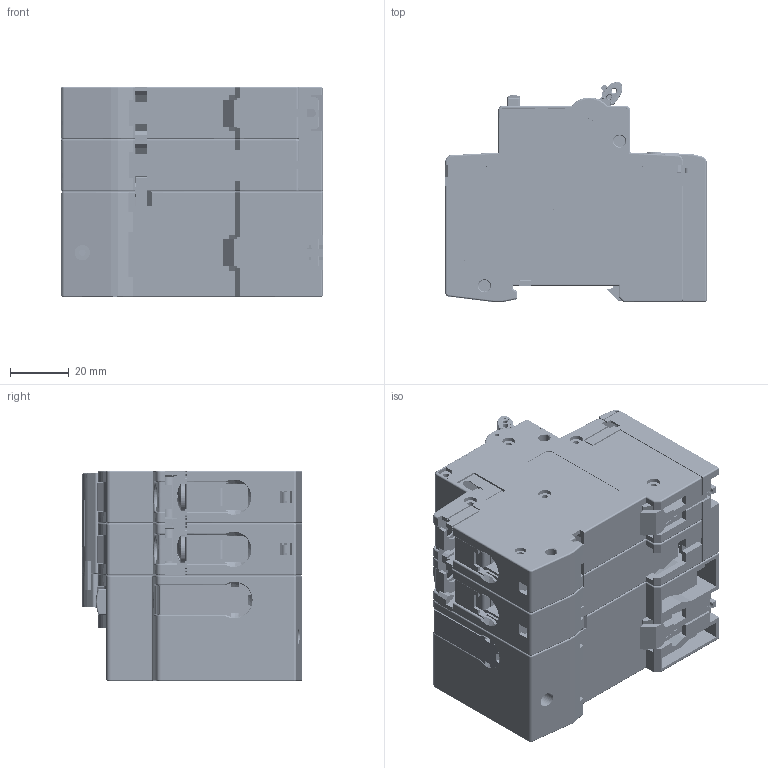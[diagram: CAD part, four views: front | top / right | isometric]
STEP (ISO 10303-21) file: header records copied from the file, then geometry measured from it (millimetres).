
FILE_DESCRIPTION (( 'STEP AP214' ), '1' );
FILE_NAME ('KNLE2-63H装配体2P.STEP', '2020-10-12T03:04:13', ( '微软用户' ), ( '微软中国' ), 'SwSTEP 2.0', 'SolidWorks 2015', '' );
FILE_SCHEMA (( 'AUTOMOTIVE_DESIGN' ));
Length unit declared in the file: millimetre
Products named in the file (20): 2P裔赽; 2P價釱; sb_tao_2p-knb2-s; KNLE2-63H蚾饜极2P; jie_xian_ban_r-knb2-s; 偌聽; 縐諶; N憤欶3.DWG; C65忒梟; 質蚚C65珋測遴蹟隊; 借用C65现代款接线柱; 諉盄啣; 2P欶; 儂殤菁; 儂殤裔; 忒梟1.1; 儂殤耜啣; BMS（32.7）32-04卡板; 2017C65裔; 2017C65菁
Assembly tree (33 placements, depth 2):
  KNLE2-63H蚾饜极2P
    2P價釱
    2P裔赽
    2017C65菁  x2
    2017C65裔  x2
    BMS（32.7）32-04卡板  x2
    儂殤耜啣
    忒梟1.1
    儂殤裔
    儂殤菁
    2P欶
    諉盄啣  x2
    借用C65现代款接线柱  x4
    質蚚C65珋測遴蹟隊  x4
    C65忒梟  x2
    N憤欶3.DWG
    縐諶  x3
    偌聽
    jie_xian_ban_r-knb2-s  x2
    sb_tao_2p-knb2-s
Bounding box: 89.04 x 75.07 x 71.6 mm (x, y, z)
Volume: 118516.8 mm3; surface area: 173748.8 mm2
Topology: 34 solids, 44 shells, 7534 faces, 20990 edges, 13721 vertices
Faces by surface type: plane 5095, cylinder 1971, cone 222, bspline 179, torus 54, sphere 13
Entity records: 166243 total; most frequent: CARTESIAN_POINT 45404, ORIENTED_EDGE 25918, DIRECTION 22709, EDGE_CURVE 12959, VECTOR 9567, LINE 9567, VERTEX_POINT 8457, AXIS2_PLACEMENT_3D 6571
